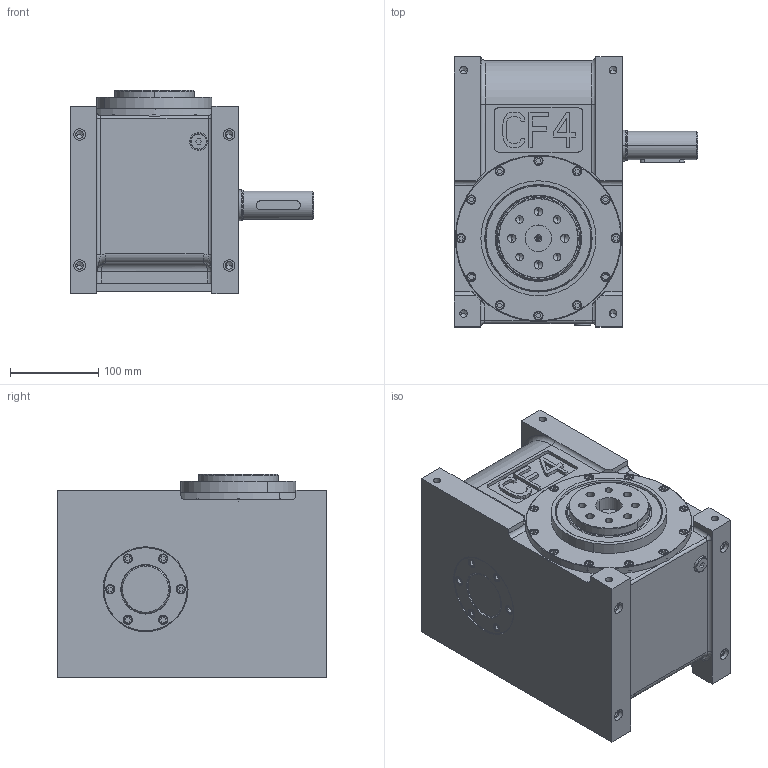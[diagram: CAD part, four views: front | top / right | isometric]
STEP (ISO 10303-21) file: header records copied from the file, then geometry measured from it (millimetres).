
FILE_DESCRIPTION((''),'2;1');
FILE_NAME('CF4_105G_LIB_SW0001','2006-11-13T',('Gbiondi'),(''),'PRO/ENGINEER BY PARAMETRIC TECHNOLOGY CORPORATION, 2006080','PRO/ENGINEER BY PARAMETRIC TECHNOLOGY CORPORATION, 2006080','');
FILE_SCHEMA(('CONFIG_CONTROL_DESIGN'));
Length unit declared in the file: millimetre
Products named in the file (1): CF4_105G_LIB_SW0001
Bounding box: 275 x 305 x 230 mm (x, y, z)
Volume: 11717976.6 mm3; surface area: 427175.3 mm2
Topology: 1 solids, 2 shells, 904 faces, 2131 edges, 1336 vertices
Faces by surface type: plane 426, cylinder 302, cone 164, torus 8, bspline 4
Entity records: 26626 total; most frequent: CARTESIAN_POINT 5435, DIRECTION 4567, ORIENTED_EDGE 4158, EDGE_CURVE 2079, AXIS2_PLACEMENT_3D 1621, VERTEX_POINT 1336, VECTOR 1325, LINE 1325
